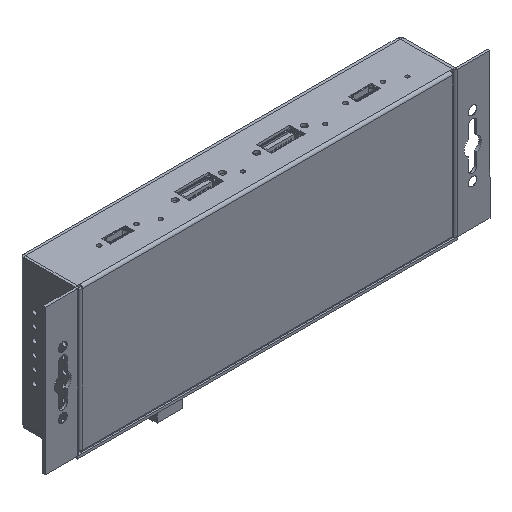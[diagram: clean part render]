
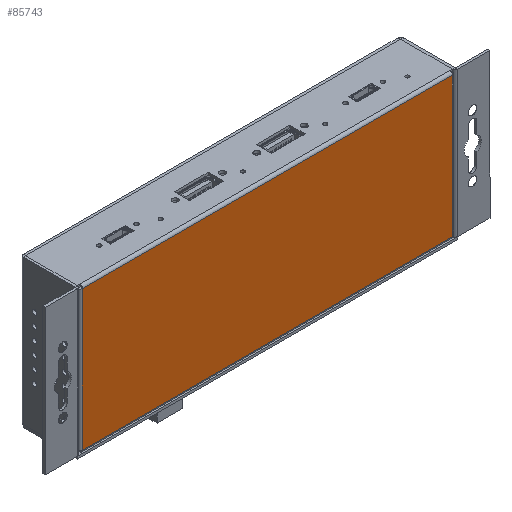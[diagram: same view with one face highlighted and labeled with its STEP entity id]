
A CAD part, isometric view. The second image highlights one B-rep face of the part: STEP entity #85743.
In plain terms, the highlighted planar face has unit normal (0, -1, 0).
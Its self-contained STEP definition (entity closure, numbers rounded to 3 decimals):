
#1315=PLANE('',#90882);
#4726=FACE_OUTER_BOUND('',#9334,.T.);
#9334=EDGE_LOOP('',(#58897,#58898,#58899,#58900));
#14303=LINE('',#122095,#24680);
#14369=LINE('',#122263,#24746);
#14382=LINE('',#122296,#24759);
#14394=LINE('',#122327,#24771);
#24680=VECTOR('',#97864,10.);
#24746=VECTOR('',#98026,10.);
#24759=VECTOR('',#98065,10.);
#24771=VECTOR('',#98103,10.);
#37072=VERTEX_POINT('',#122078);
#37076=VERTEX_POINT('',#122093);
#37130=VERTEX_POINT('',#122262);
#37137=VERTEX_POINT('',#122295);
#45516=EDGE_CURVE('',#37076,#37072,#14303,.T.);
#45599=EDGE_CURVE('',#37072,#37130,#14369,.T.);
#45616=EDGE_CURVE('',#37137,#37130,#14382,.T.);
#45632=EDGE_CURVE('',#37076,#37137,#14394,.T.);
#58897=ORIENTED_EDGE('',*,*,#45599,.F.);
#58898=ORIENTED_EDGE('',*,*,#45516,.F.);
#58899=ORIENTED_EDGE('',*,*,#45632,.T.);
#58900=ORIENTED_EDGE('',*,*,#45616,.T.);
#85743=ADVANCED_FACE('',(#4726),#1315,.T.);
#90882=AXIS2_PLACEMENT_3D('',#122342,#98121,#98122);
#97864=DIRECTION('',(0.,0.,-1.));
#98026=DIRECTION('',(-1.,0.,0.));
#98065=DIRECTION('',(0.,0.,-1.));
#98103=DIRECTION('',(-1.,0.,0.));
#98121=DIRECTION('center_axis',(0.,-1.,0.));
#98122=DIRECTION('ref_axis',(1.,0.,0.));
#122078=CARTESIAN_POINT('',(74.44,-6.,-56.52));
#122093=CARTESIAN_POINT('',(74.44,-6.,-0.18));
#122095=CARTESIAN_POINT('',(74.44,-6.,-42.94));
#122262=CARTESIAN_POINT('',(-74.44,-6.,-56.52));
#122263=CARTESIAN_POINT('',(18.863,-6.,-56.52));
#122295=CARTESIAN_POINT('',(-74.44,-6.,-0.18));
#122296=CARTESIAN_POINT('',(-74.44,-6.,-42.94));
#122327=CARTESIAN_POINT('',(-56.587,-6.,-0.18));
#122342=CARTESIAN_POINT('Origin',(-37.725,-6.,-28.35));
